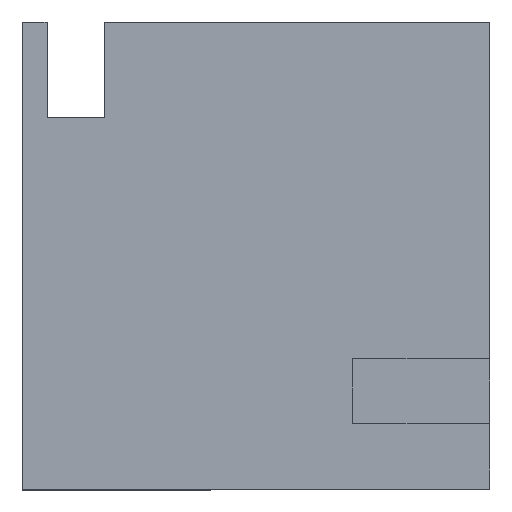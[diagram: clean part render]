
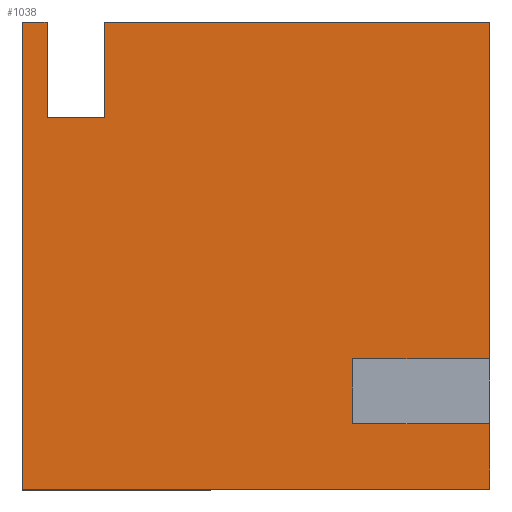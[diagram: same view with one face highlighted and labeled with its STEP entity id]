
A CAD part, top view. The second image highlights one B-rep face of the part: STEP entity #1038.
In plain terms, the highlighted planar face has unit normal (0, 0, 1).
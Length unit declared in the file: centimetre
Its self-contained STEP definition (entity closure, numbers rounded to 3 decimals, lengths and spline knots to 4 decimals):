
#18 = VERTEX_POINT ( 'NONE', #371 ) ;
#23 = ORIENTED_EDGE ( 'NONE', *, *, #841, .T. ) ;
#36 = DIRECTION ( 'NONE',  ( -1., 0., 0. ) ) ;
#39 = ORIENTED_EDGE ( 'NONE', *, *, #811, .T. ) ;
#40 = LINE ( 'NONE', #423, #706 ) ;
#41 = VECTOR ( 'NONE', #386, 100. ) ;
#64 = CARTESIAN_POINT ( 'NONE',  ( 706.8012, 279.5943, 1000. ) ) ;
#70 = LINE ( 'NONE', #453, #1019 ) ;
#83 = LINE ( 'NONE', #1216, #41 ) ;
#163 = LINE ( 'NONE', #336, #363 ) ;
#165 = CARTESIAN_POINT ( 'NONE',  ( 0., 1000., 1000. ) ) ;
#189 = CARTESIAN_POINT ( 'NONE',  ( 0., 0., 1000. ) ) ;
#190 = EDGE_CURVE ( 'NONE', #1167, #437, #163, .T. ) ;
#204 = VERTEX_POINT ( 'NONE', #720 ) ;
#228 = DIRECTION ( 'NONE',  ( -1., 0., 0. ) ) ;
#229 = DIRECTION ( 'NONE',  ( 1., 0., 0. ) ) ;
#232 = PLANE ( 'NONE',  #666 ) ;
#239 = VERTEX_POINT ( 'NONE', #64 ) ;
#251 = DIRECTION ( 'NONE',  ( 0., 0., 1. ) ) ;
#254 = CARTESIAN_POINT ( 'NONE',  ( 52.7976, 794.6469, 1000. ) ) ;
#256 = VERTEX_POINT ( 'NONE', #940 ) ;
#260 = EDGE_LOOP ( 'NONE', ( #1126, #1192, #23, #804, #964, #494, #1051, #517, #1169, #1072, #39, #477 ) ) ;
#266 = DIRECTION ( 'NONE',  ( 0., 1., 0. ) ) ;
#296 = VERTEX_POINT ( 'NONE', #374 ) ;
#306 = EDGE_CURVE ( 'NONE', #18, #640, #1117, .T. ) ;
#336 = CARTESIAN_POINT ( 'NONE',  ( 0., 1000., 1000. ) ) ;
#363 = VECTOR ( 'NONE', #728, 100. ) ;
#371 = CARTESIAN_POINT ( 'NONE',  ( 175.2657, 794.6469, 1000. ) ) ;
#374 = CARTESIAN_POINT ( 'NONE',  ( 175.2657, 1000., 1000. ) ) ;
#386 = DIRECTION ( 'NONE',  ( 1., 0., 0. ) ) ;
#390 = LINE ( 'NONE', #805, #579 ) ;
#415 = CARTESIAN_POINT ( 'NONE',  ( 0., 1000., 1000. ) ) ;
#423 = CARTESIAN_POINT ( 'NONE',  ( 175.2657, 794.6469, 1000. ) ) ;
#427 = EDGE_CURVE ( 'NONE', #256, #899, #767, .T. ) ;
#431 = DIRECTION ( 'NONE',  ( 0., -1., 0. ) ) ;
#437 = VERTEX_POINT ( 'NONE', #1042 ) ;
#453 = CARTESIAN_POINT ( 'NONE',  ( 52.7976, 794.6469, 1000. ) ) ;
#469 = EDGE_CURVE ( 'NONE', #239, #950, #671, .T. ) ;
#477 = ORIENTED_EDGE ( 'NONE', *, *, #427, .T. ) ;
#494 = ORIENTED_EDGE ( 'NONE', *, *, #1049, .T. ) ;
#508 = EDGE_CURVE ( 'NONE', #950, #899, #600, .T. ) ;
#512 = VECTOR ( 'NONE', #978, 100. ) ;
#517 = ORIENTED_EDGE ( 'NONE', *, *, #1195, .T. ) ;
#522 = DIRECTION ( 'NONE',  ( 1., 0., 0. ) ) ;
#579 = VECTOR ( 'NONE', #228, 100. ) ;
#600 = LINE ( 'NONE', #710, #1189 ) ;
#603 = LINE ( 'NONE', #415, #1018 ) ;
#624 = VECTOR ( 'NONE', #1068, 100. ) ;
#640 = VERTEX_POINT ( 'NONE', #902 ) ;
#645 = DIRECTION ( 'NONE',  ( -1., 0., 0. ) ) ;
#666 = AXIS2_PLACEMENT_3D ( 'NONE', #1210, #251, #522 ) ;
#668 = VERTEX_POINT ( 'NONE', #1185 ) ;
#671 = LINE ( 'NONE', #870, #1164 ) ;
#676 = EDGE_CURVE ( 'NONE', #684, #296, #603, .T. ) ;
#684 = VERTEX_POINT ( 'NONE', #1196 ) ;
#706 = VECTOR ( 'NONE', #431, 100. ) ;
#710 = CARTESIAN_POINT ( 'NONE',  ( 706.8012, 140.4705, 1000. ) ) ;
#720 = CARTESIAN_POINT ( 'NONE',  ( 1000., 279.5943, 1000. ) ) ;
#728 = DIRECTION ( 'NONE',  ( 0., -1., 0. ) ) ;
#767 = LINE ( 'NONE', #779, #512 ) ;
#773 = CARTESIAN_POINT ( 'NONE',  ( 1000., 140.4705, 1000. ) ) ;
#777 = FACE_OUTER_BOUND ( 'NONE', #260, .T. ) ;
#779 = CARTESIAN_POINT ( 'NONE',  ( 1000., 1000., 1000. ) ) ;
#804 = ORIENTED_EDGE ( 'NONE', *, *, #923, .T. ) ;
#805 = CARTESIAN_POINT ( 'NONE',  ( 0., 1000., 1000. ) ) ;
#811 = EDGE_CURVE ( 'NONE', #437, #256, #1139, .T. ) ;
#813 = VECTOR ( 'NONE', #645, 100. ) ;
#827 = VECTOR ( 'NONE', #1145, 100. ) ;
#841 = EDGE_CURVE ( 'NONE', #239, #204, #83, .T. ) ;
#870 = CARTESIAN_POINT ( 'NONE',  ( 706.8012, 140.4705, 1000. ) ) ;
#893 = CARTESIAN_POINT ( 'NONE',  ( 706.8012, 140.4705, 1000. ) ) ;
#899 = VERTEX_POINT ( 'NONE', #773 ) ;
#902 = CARTESIAN_POINT ( 'NONE',  ( 52.7976, 794.6469, 1000. ) ) ;
#923 = EDGE_CURVE ( 'NONE', #204, #684, #1058, .T. ) ;
#940 = CARTESIAN_POINT ( 'NONE',  ( 1000., 0., 1000. ) ) ;
#950 = VERTEX_POINT ( 'NONE', #893 ) ;
#964 = ORIENTED_EDGE ( 'NONE', *, *, #676, .T. ) ;
#978 = DIRECTION ( 'NONE',  ( 0., 1., 0. ) ) ;
#983 = CARTESIAN_POINT ( 'NONE',  ( 1000., 1000., 1000. ) ) ;
#1015 = EDGE_CURVE ( 'NONE', #668, #1167, #390, .T. ) ;
#1018 = VECTOR ( 'NONE', #36, 100. ) ;
#1019 = VECTOR ( 'NONE', #266, 100. ) ;
#1038 = ADVANCED_FACE ( 'NONE', ( #777 ), #232, .T. ) ;
#1042 = CARTESIAN_POINT ( 'NONE',  ( 0., 0., 1000. ) ) ;
#1049 = EDGE_CURVE ( 'NONE', #296, #18, #40, .T. ) ;
#1050 = DIRECTION ( 'NONE',  ( 0., -1., 0. ) ) ;
#1051 = ORIENTED_EDGE ( 'NONE', *, *, #306, .T. ) ;
#1058 = LINE ( 'NONE', #983, #624 ) ;
#1068 = DIRECTION ( 'NONE',  ( 0., 1., 0. ) ) ;
#1072 = ORIENTED_EDGE ( 'NONE', *, *, #190, .T. ) ;
#1117 = LINE ( 'NONE', #254, #813 ) ;
#1126 = ORIENTED_EDGE ( 'NONE', *, *, #508, .F. ) ;
#1139 = LINE ( 'NONE', #189, #827 ) ;
#1145 = DIRECTION ( 'NONE',  ( 1., 0., 0. ) ) ;
#1164 = VECTOR ( 'NONE', #1050, 100. ) ;
#1167 = VERTEX_POINT ( 'NONE', #165 ) ;
#1169 = ORIENTED_EDGE ( 'NONE', *, *, #1015, .T. ) ;
#1185 = CARTESIAN_POINT ( 'NONE',  ( 52.7976, 1000., 1000. ) ) ;
#1189 = VECTOR ( 'NONE', #229, 100. ) ;
#1192 = ORIENTED_EDGE ( 'NONE', *, *, #469, .F. ) ;
#1195 = EDGE_CURVE ( 'NONE', #640, #668, #70, .T. ) ;
#1196 = CARTESIAN_POINT ( 'NONE',  ( 1000., 1000., 1000. ) ) ;
#1210 = CARTESIAN_POINT ( 'NONE',  ( 0., 0., 1000. ) ) ;
#1216 = CARTESIAN_POINT ( 'NONE',  ( 706.8012, 279.5943, 1000. ) ) ;
